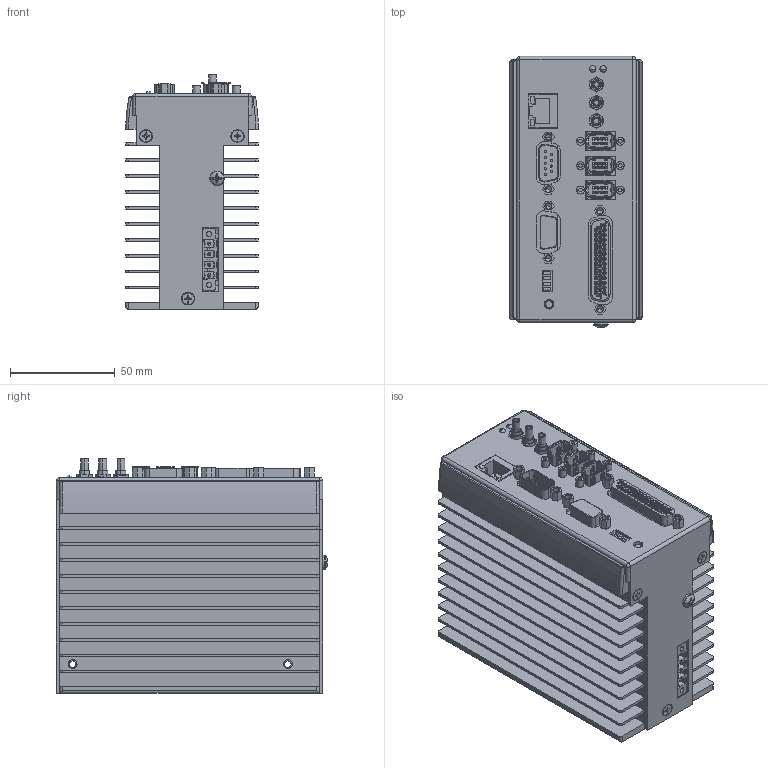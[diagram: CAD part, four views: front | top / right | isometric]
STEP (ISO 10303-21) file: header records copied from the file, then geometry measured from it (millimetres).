
FILE_DESCRIPTION((''),'2;1');
FILE_NAME('CD_NI_1454','2010-01-20T',('scarrasc'),(''),'PRO/ENGINEER BY PARAMETRIC TECHNOLOGY CORPORATION, 2006300','PRO/ENGINEER BY PARAMETRIC TECHNOLOGY CORPORATION, 2006300','');
FILE_SCHEMA(('CONFIG_CONTROL_DESIGN'));
Length unit declared in the file: inch
Products named in the file (1): CD_NI_1454
Bounding box: 63.45 x 129.6 x 112.09 mm (x, y, z)
Volume: 277631.7 mm3; surface area: 233505.7 mm2
Topology: 3 solids, 3 shells, 4428 faces, 11810 edges, 7568 vertices
Faces by surface type: plane 2959, cylinder 1037, cone 244, bspline 144, torus 24, sphere 20
Entity records: 141466 total; most frequent: CARTESIAN_POINT 30213, ORIENTED_EDGE 23308, DIRECTION 22362, EDGE_CURVE 11654, VECTOR 8810, LINE 8810, VERTEX_POINT 7701, AXIS2_PLACEMENT_3D 6776
